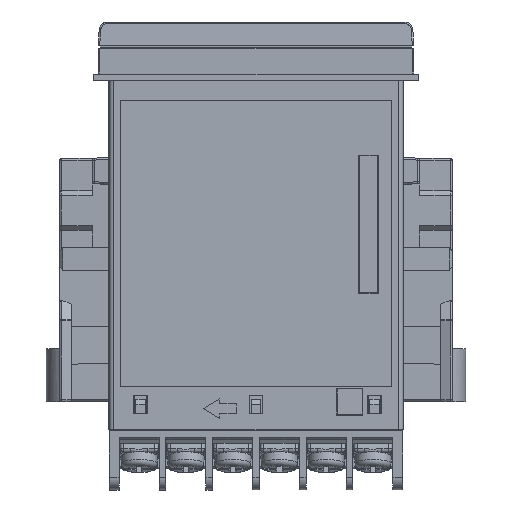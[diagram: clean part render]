
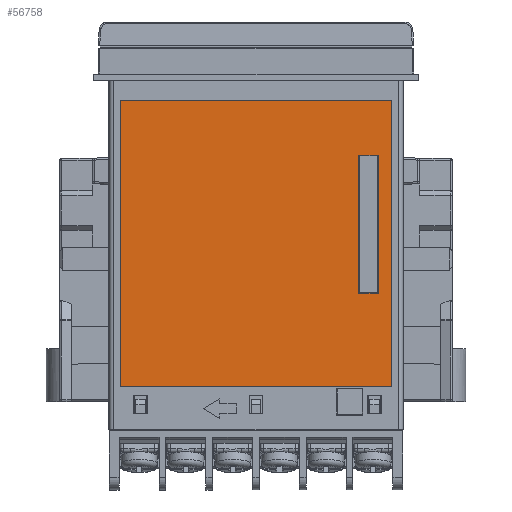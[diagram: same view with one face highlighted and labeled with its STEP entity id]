
A CAD part, left-side view. The second image highlights one B-rep face of the part: STEP entity #56758.
In plain terms, the highlighted planar face has unit normal (-1, 0, 0).
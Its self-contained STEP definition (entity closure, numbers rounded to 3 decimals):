
#1964 = CARTESIAN_POINT ( 'NONE',  ( -22.225, -18.575, -37.2 ) ) ;
#5439 = EDGE_LOOP ( 'NONE', ( #46789, #9577, #41646, #168082 ) ) ;
#5648 = DIRECTION ( 'NONE',  ( 1., 0., 0. ) ) ;
#6492 = CARTESIAN_POINT ( 'NONE',  ( -22.225, -18.575, -16.2 ) ) ;
#9577 = ORIENTED_EDGE ( 'NONE', *, *, #142300, .F. ) ;
#10387 = LINE ( 'NONE', #154365, #41275 ) ;
#11647 = EDGE_CURVE ( 'NONE', #27500, #17945, #19907, .T. ) ;
#12305 = CARTESIAN_POINT ( 'NONE',  ( -22.225, -20.6, -51.4 ) ) ;
#17328 = ORIENTED_EDGE ( 'NONE', *, *, #11647, .F. ) ;
#17945 = VERTEX_POINT ( 'NONE', #39315 ) ;
#19823 = EDGE_CURVE ( 'NONE', #160066, #131850, #57825, .T. ) ;
#19907 = LINE ( 'NONE', #12305, #120863 ) ;
#24604 = VERTEX_POINT ( 'NONE', #124368 ) ;
#27500 = VERTEX_POINT ( 'NONE', #91546 ) ;
#28208 = LINE ( 'NONE', #1964, #168345 ) ;
#28585 = CARTESIAN_POINT ( 'NONE',  ( -22.225, -15.575, -37.2 ) ) ;
#28807 = FACE_BOUND ( 'NONE', #5439, .T. ) ;
#31274 = CARTESIAN_POINT ( 'NONE',  ( -22.225, 20.6, -51.4 ) ) ;
#39315 = CARTESIAN_POINT ( 'NONE',  ( -22.225, -20.6, -51.4 ) ) ;
#40077 = EDGE_CURVE ( 'NONE', #154056, #82781, #10387, .T. ) ;
#41275 = VECTOR ( 'NONE', #154932, 1000. ) ;
#41646 = ORIENTED_EDGE ( 'NONE', *, *, #51522, .F. ) ;
#41760 = DIRECTION ( 'NONE',  ( 0., -1., 0. ) ) ;
#42362 = VECTOR ( 'NONE', #41760, 1000. ) ;
#46789 = ORIENTED_EDGE ( 'NONE', *, *, #62586, .F. ) ;
#51522 = EDGE_CURVE ( 'NONE', #131850, #58293, #161693, .T. ) ;
#56758 = ADVANCED_FACE ( 'NONE', ( #28807, #129826 ), #163475, .F. ) ;
#57825 = LINE ( 'NONE', #59714, #127930 ) ;
#58293 = VERTEX_POINT ( 'NONE', #102660 ) ;
#59714 = CARTESIAN_POINT ( 'NONE',  ( -22.225, -15.575, -16.2 ) ) ;
#62586 = EDGE_CURVE ( 'NONE', #24604, #160066, #28208, .T. ) ;
#63175 = VECTOR ( 'NONE', #109632, 1000. ) ;
#68606 = DIRECTION ( 'NONE',  ( 0., 0., -1. ) ) ;
#69971 = CARTESIAN_POINT ( 'NONE',  ( -22.225, -15.575, -37.2 ) ) ;
#82781 = VERTEX_POINT ( 'NONE', #161482 ) ;
#82861 = EDGE_CURVE ( 'NONE', #17945, #154056, #155970, .T. ) ;
#91546 = CARTESIAN_POINT ( 'NONE',  ( -22.225, -20.6, -7.9 ) ) ;
#91609 = VECTOR ( 'NONE', #135730, 1000. ) ;
#94163 = DIRECTION ( 'NONE',  ( 0., 0., 1. ) ) ;
#97790 = DIRECTION ( 'NONE',  ( 0., 0., 1. ) ) ;
#102375 = ORIENTED_EDGE ( 'NONE', *, *, #40077, .F. ) ;
#102660 = CARTESIAN_POINT ( 'NONE',  ( -22.225, -15.575, -37.2 ) ) ;
#103356 = ORIENTED_EDGE ( 'NONE', *, *, #82861, .F. ) ;
#109632 = DIRECTION ( 'NONE',  ( 0., 1., 0. ) ) ;
#116624 = LINE ( 'NONE', #28585, #42362 ) ;
#120863 = VECTOR ( 'NONE', #68606, 1000. ) ;
#124368 = CARTESIAN_POINT ( 'NONE',  ( -22.225, -18.575, -37.2 ) ) ;
#126772 = DIRECTION ( 'NONE',  ( 0., 1., 0. ) ) ;
#127930 = VECTOR ( 'NONE', #126772, 1000. ) ;
#128439 = CARTESIAN_POINT ( 'NONE',  ( -22.225, -15.575, -16.2 ) ) ;
#129826 = FACE_OUTER_BOUND ( 'NONE', #132590, .T. ) ;
#131850 = VERTEX_POINT ( 'NONE', #128439 ) ;
#132590 = EDGE_LOOP ( 'NONE', ( #103356, #17328, #163738, #102375 ) ) ;
#134565 = VECTOR ( 'NONE', #162632, 1000. ) ;
#135730 = DIRECTION ( 'NONE',  ( 0., 0., -1. ) ) ;
#138627 = LINE ( 'NONE', #149420, #134565 ) ;
#142300 = EDGE_CURVE ( 'NONE', #58293, #24604, #116624, .T. ) ;
#149420 = CARTESIAN_POINT ( 'NONE',  ( -22.225, -20.6, -7.9 ) ) ;
#150245 = CARTESIAN_POINT ( 'NONE',  ( -22.225, -20.6, -51.4 ) ) ;
#154056 = VERTEX_POINT ( 'NONE', #159863 ) ;
#154365 = CARTESIAN_POINT ( 'NONE',  ( -22.225, 20.6, -7.9 ) ) ;
#154932 = DIRECTION ( 'NONE',  ( 0., 0., 1. ) ) ;
#155970 = LINE ( 'NONE', #31274, #63175 ) ;
#159863 = CARTESIAN_POINT ( 'NONE',  ( -22.225, 20.6, -51.4 ) ) ;
#159987 = EDGE_CURVE ( 'NONE', #82781, #27500, #138627, .T. ) ;
#160066 = VERTEX_POINT ( 'NONE', #6492 ) ;
#161482 = CARTESIAN_POINT ( 'NONE',  ( -22.225, 20.6, -7.9 ) ) ;
#161693 = LINE ( 'NONE', #69971, #91609 ) ;
#162632 = DIRECTION ( 'NONE',  ( 0., -1., 0. ) ) ;
#163475 = PLANE ( 'NONE',  #167654 ) ;
#163738 = ORIENTED_EDGE ( 'NONE', *, *, #159987, .F. ) ;
#167654 = AXIS2_PLACEMENT_3D ( 'NONE', #150245, #5648, #97790 ) ;
#168082 = ORIENTED_EDGE ( 'NONE', *, *, #19823, .F. ) ;
#168345 = VECTOR ( 'NONE', #94163, 1000. ) ;
